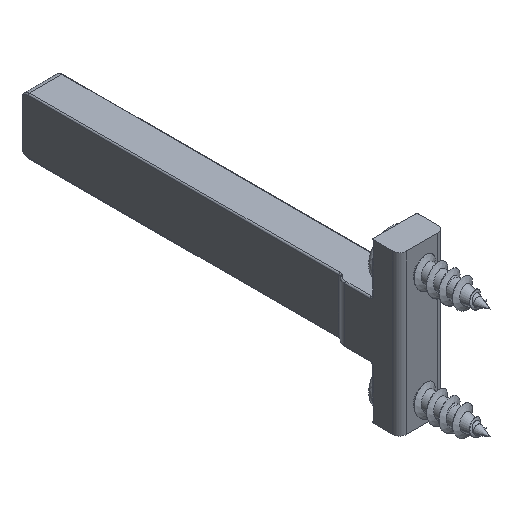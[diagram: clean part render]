
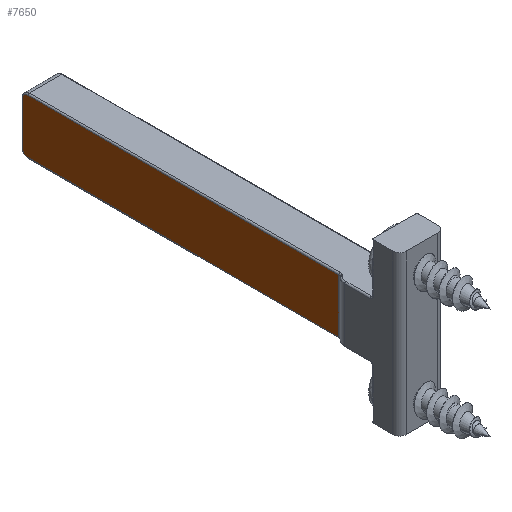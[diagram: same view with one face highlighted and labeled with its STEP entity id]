
A CAD part, isometric view. The second image highlights one B-rep face of the part: STEP entity #7650.
In plain terms, the highlighted planar face has unit normal (-1, 0, 0).
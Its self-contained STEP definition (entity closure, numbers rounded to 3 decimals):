
#128 = CARTESIAN_POINT ( 'NONE',  ( -2.55, 54.5, 14.8 ) ) ;
#268 = CIRCLE ( 'NONE', #4444, 0.8 ) ;
#388 = DIRECTION ( 'NONE',  ( 1., 0., 0. ) ) ;
#514 = VERTEX_POINT ( 'NONE', #1922 ) ;
#687 = EDGE_CURVE ( 'NONE', #514, #3147, #4267, .T. ) ;
#720 = DIRECTION ( 'NONE',  ( 0., 0., -1. ) ) ;
#774 = DIRECTION ( 'NONE',  ( 0., 0., -1. ) ) ;
#913 = DIRECTION ( 'NONE',  ( 0., 1., 0. ) ) ;
#1068 = CARTESIAN_POINT ( 'NONE',  ( -2.55, 9.3, 7.8 ) ) ;
#1178 = LINE ( 'NONE', #1068, #2688 ) ;
#1551 = VECTOR ( 'NONE', #913, 1000. ) ;
#1762 = FACE_OUTER_BOUND ( 'NONE', #3729, .T. ) ;
#1831 = LINE ( 'NONE', #2645, #6748 ) ;
#1834 = AXIS2_PLACEMENT_3D ( 'NONE', #128, #4595, #774 ) ;
#1875 = CARTESIAN_POINT ( 'NONE',  ( -2.55, 9.507, 7.8 ) ) ;
#1919 = CARTESIAN_POINT ( 'NONE',  ( -2.55, 54.5, 7.8 ) ) ;
#1922 = CARTESIAN_POINT ( 'NONE',  ( -2.55, 9.507, 15.6 ) ) ;
#2053 = CARTESIAN_POINT ( 'NONE',  ( -2.55, 55.3, 14.8 ) ) ;
#2136 = ORIENTED_EDGE ( 'NONE', *, *, #687, .F. ) ;
#2148 = EDGE_CURVE ( 'NONE', #7831, #3147, #1178, .T. ) ;
#2357 = DIRECTION ( 'NONE',  ( 0., -1., 0. ) ) ;
#2490 = DIRECTION ( 'NONE',  ( -1., 0., 0. ) ) ;
#2645 = CARTESIAN_POINT ( 'NONE',  ( -2.55, 55.3, 8.6 ) ) ;
#2688 = VECTOR ( 'NONE', #2357, 1000. ) ;
#2722 = ORIENTED_EDGE ( 'NONE', *, *, #2148, .T. ) ;
#3121 = ORIENTED_EDGE ( 'NONE', *, *, #6757, .T. ) ;
#3147 = VERTEX_POINT ( 'NONE', #1875 ) ;
#3231 = LINE ( 'NONE', #7956, #1551 ) ;
#3585 = PLANE ( 'NONE',  #7599 ) ;
#3729 = EDGE_LOOP ( 'NONE', ( #2136, #5885, #5560, #4228, #3121, #2722 ) ) ;
#3787 = EDGE_CURVE ( 'NONE', #514, #8297, #3231, .T. ) ;
#4035 = DIRECTION ( 'NONE',  ( 0., 0., -1. ) ) ;
#4211 = CARTESIAN_POINT ( 'NONE',  ( -2.55, 9.3, 23.4 ) ) ;
#4228 = ORIENTED_EDGE ( 'NONE', *, *, #6044, .T. ) ;
#4267 = LINE ( 'NONE', #7315, #7710 ) ;
#4444 = AXIS2_PLACEMENT_3D ( 'NONE', #6306, #2490, #6962 ) ;
#4595 = DIRECTION ( 'NONE',  ( -1., 0., 0. ) ) ;
#4875 = DIRECTION ( 'NONE',  ( 0., 0., 1. ) ) ;
#4908 = EDGE_CURVE ( 'NONE', #8297, #6148, #6041, .T. ) ;
#5230 = CARTESIAN_POINT ( 'NONE',  ( -2.55, 54.5, 15.6 ) ) ;
#5560 = ORIENTED_EDGE ( 'NONE', *, *, #4908, .T. ) ;
#5885 = ORIENTED_EDGE ( 'NONE', *, *, #3787, .T. ) ;
#6041 = CIRCLE ( 'NONE', #1834, 0.8 ) ;
#6044 = EDGE_CURVE ( 'NONE', #6148, #7776, #1831, .T. ) ;
#6148 = VERTEX_POINT ( 'NONE', #2053 ) ;
#6306 = CARTESIAN_POINT ( 'NONE',  ( -2.55, 54.5, 8.6 ) ) ;
#6748 = VECTOR ( 'NONE', #720, 1000. ) ;
#6757 = EDGE_CURVE ( 'NONE', #7776, #7831, #268, .T. ) ;
#6962 = DIRECTION ( 'NONE',  ( 0., 0., -1. ) ) ;
#7315 = CARTESIAN_POINT ( 'NONE',  ( -2.55, 9.507, 7.5 ) ) ;
#7599 = AXIS2_PLACEMENT_3D ( 'NONE', #4211, #388, #4875 ) ;
#7609 = CARTESIAN_POINT ( 'NONE',  ( -2.55, 55.3, 8.6 ) ) ;
#7650 = ADVANCED_FACE ( 'NONE', ( #1762 ), #3585, .F. ) ;
#7710 = VECTOR ( 'NONE', #4035, 1000. ) ;
#7776 = VERTEX_POINT ( 'NONE', #7609 ) ;
#7831 = VERTEX_POINT ( 'NONE', #1919 ) ;
#7956 = CARTESIAN_POINT ( 'NONE',  ( -2.55, 9.3, 15.6 ) ) ;
#8297 = VERTEX_POINT ( 'NONE', #5230 ) ;
